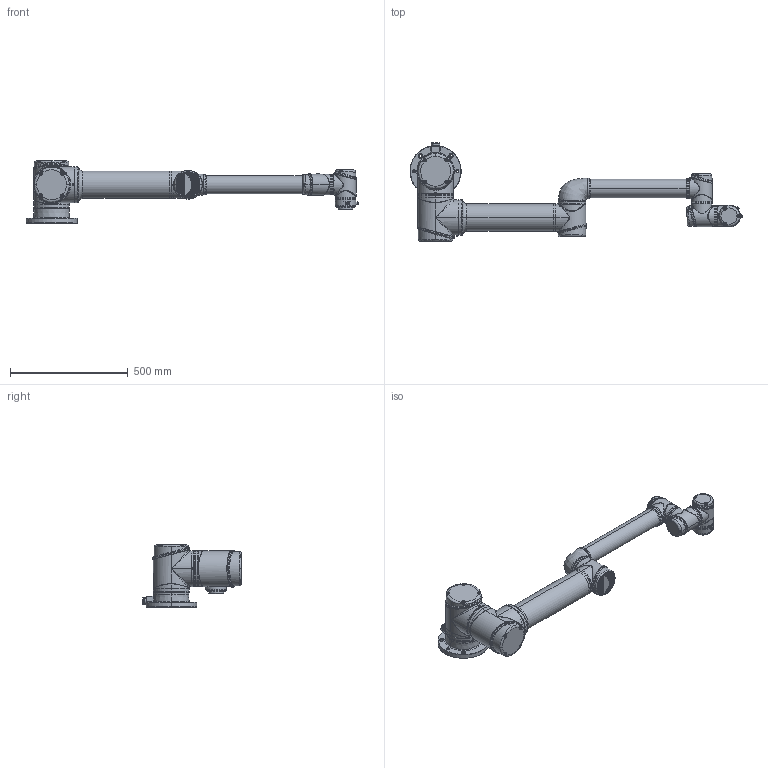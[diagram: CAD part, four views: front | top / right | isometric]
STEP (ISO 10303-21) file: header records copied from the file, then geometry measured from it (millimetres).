
FILE_DESCRIPTION (( 'STEP AP214' ), '1' );
FILE_NAME ('i12-Íâ·¢Ä£ÐÍ.STEP', '2025-11-10T01:56:52', ( '' ), ( '' ), 'SwSTEP 2.0', 'SolidWorks 2024', '' );
FILE_SCHEMA (( 'AUTOMOTIVE_DESIGN' ));
Length unit declared in the file: millimetre
Products named in the file (8): i12-ID5; i12-外发模型; i12-ID6; i12-底座; i12-ID1; i12-大臂; iS10-末端简化; i12-小臂
Assembly tree (7 placements, depth 2):
  i12-外发模型
    i12-底座
    i12-ID1
    i12-大臂
    i12-小臂
    i12-ID5
    i12-ID6
    iS10-末端简化
Bounding box: 1411.98 x 419.8 x 264 mm (x, y, z)
Volume: 21956128.9 mm3; surface area: 1103139.1 mm2
Topology: 11 solids, 22 shells, 2686 faces, 6524 edges, 4004 vertices
Faces by surface type: plane 1009, cylinder 689, bspline 536, cone 324, torus 116, sphere 12
Entity records: 180102 total; most frequent: CARTESIAN_POINT 94919, ORIENTED_EDGE 12942, DIRECTION 11448, EDGE_CURVE 6471, AXIS2_PLACEMENT_3D 4395, VERTEX_POINT 4003, EDGE_LOOP 2886, FACE_OUTER_BOUND 2686
